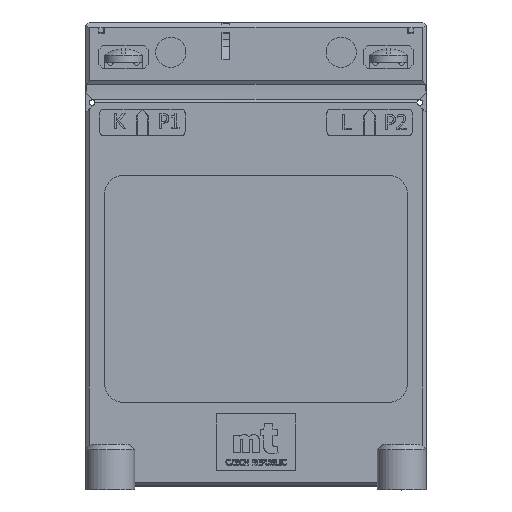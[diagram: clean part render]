
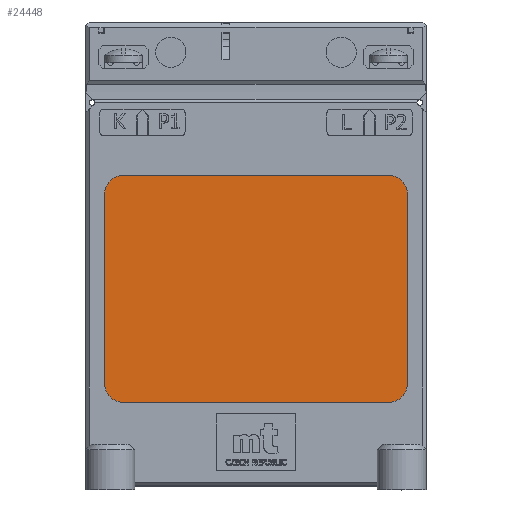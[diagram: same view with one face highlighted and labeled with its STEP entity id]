
A CAD part, top view. The second image highlights one B-rep face of the part: STEP entity #24448.
In plain terms, the highlighted planar face has unit normal (0, 0, 1) as drawn and (0, 0, -1) by its records, which use the part's own axes.
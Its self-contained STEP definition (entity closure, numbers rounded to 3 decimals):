
#819=CIRCLE('',#25814,5.);
#820=CIRCLE('',#25817,5.);
#821=CIRCLE('',#25820,5.);
#822=CIRCLE('',#25823,5.);
#1334=PLANE('',#25825);
#2328=FACE_OUTER_BOUND('',#3700,.T.);
#3700=EDGE_LOOP('',(#19111,#19112,#19113,#19114,#19115,#19116,#19117,#19118));
#5648=LINE('',#36222,#8285);
#5651=LINE('',#36230,#8288);
#5654=LINE('',#36238,#8291);
#5656=LINE('',#36244,#8293);
#8285=VECTOR('',#28455,10.);
#8288=VECTOR('',#28464,10.);
#8291=VECTOR('',#28473,10.);
#8293=VECTOR('',#28481,10.);
#11511=VERTEX_POINT('',#36214);
#11512=VERTEX_POINT('',#36216);
#11513=VERTEX_POINT('',#36220);
#11514=VERTEX_POINT('',#36224);
#11515=VERTEX_POINT('',#36228);
#11516=VERTEX_POINT('',#36232);
#11517=VERTEX_POINT('',#36236);
#11518=VERTEX_POINT('',#36240);
#14308=EDGE_CURVE('',#11511,#11512,#819,.T.);
#14311=EDGE_CURVE('',#11513,#11511,#5648,.T.);
#14313=EDGE_CURVE('',#11514,#11513,#820,.T.);
#14315=EDGE_CURVE('',#11515,#11514,#5651,.T.);
#14317=EDGE_CURVE('',#11516,#11515,#821,.T.);
#14319=EDGE_CURVE('',#11517,#11516,#5654,.T.);
#14321=EDGE_CURVE('',#11518,#11517,#822,.T.);
#14322=EDGE_CURVE('',#11512,#11518,#5656,.T.);
#19111=ORIENTED_EDGE('',*,*,#14322,.F.);
#19112=ORIENTED_EDGE('',*,*,#14308,.F.);
#19113=ORIENTED_EDGE('',*,*,#14311,.F.);
#19114=ORIENTED_EDGE('',*,*,#14313,.F.);
#19115=ORIENTED_EDGE('',*,*,#14315,.F.);
#19116=ORIENTED_EDGE('',*,*,#14317,.F.);
#19117=ORIENTED_EDGE('',*,*,#14319,.F.);
#19118=ORIENTED_EDGE('',*,*,#14321,.F.);
#24448=ADVANCED_FACE('',(#2328),#1334,.T.);
#25814=AXIS2_PLACEMENT_3D('',#36217,#28449,#28450);
#25817=AXIS2_PLACEMENT_3D('',#36226,#28459,#28460);
#25820=AXIS2_PLACEMENT_3D('',#36234,#28468,#28469);
#25823=AXIS2_PLACEMENT_3D('',#36242,#28477,#28478);
#25825=AXIS2_PLACEMENT_3D('',#36245,#28482,#28483);
#28449=DIRECTION('center_axis',(0.,0.,1.));
#28450=DIRECTION('ref_axis',(0.,-1.,0.));
#28455=DIRECTION('',(0.,-1.,0.));
#28459=DIRECTION('center_axis',(0.,0.,1.));
#28460=DIRECTION('ref_axis',(-1.,0.,0.));
#28464=DIRECTION('',(-1.,0.,0.));
#28468=DIRECTION('center_axis',(0.,0.,1.));
#28469=DIRECTION('ref_axis',(0.,1.,0.));
#28473=DIRECTION('',(0.,1.,0.));
#28477=DIRECTION('center_axis',(0.,0.,1.));
#28478=DIRECTION('ref_axis',(1.,0.,0.));
#28481=DIRECTION('',(1.,0.,0.));
#28482=DIRECTION('center_axis',(0.,0.,-1.));
#28483=DIRECTION('ref_axis',(-1.,0.,0.));
#36214=CARTESIAN_POINT('',(-40.,27.,0.1));
#36216=CARTESIAN_POINT('',(-35.,22.,0.1));
#36217=CARTESIAN_POINT('Origin',(-35.,27.,0.1));
#36220=CARTESIAN_POINT('',(-40.,77.,0.1));
#36222=CARTESIAN_POINT('',(-40.,27.,0.1));
#36224=CARTESIAN_POINT('',(-35.,82.,0.1));
#36226=CARTESIAN_POINT('Origin',(-35.,77.,0.1));
#36228=CARTESIAN_POINT('',(35.,82.,0.1));
#36230=CARTESIAN_POINT('',(-35.,82.,0.1));
#36232=CARTESIAN_POINT('',(40.,77.,0.1));
#36234=CARTESIAN_POINT('Origin',(35.,77.,0.1));
#36236=CARTESIAN_POINT('',(40.,27.,0.1));
#36238=CARTESIAN_POINT('',(40.,77.,0.1));
#36240=CARTESIAN_POINT('',(35.,22.,0.1));
#36242=CARTESIAN_POINT('Origin',(35.,27.,0.1));
#36244=CARTESIAN_POINT('',(35.,22.,0.1));
#36245=CARTESIAN_POINT('Origin',(0.,52.,0.1));
